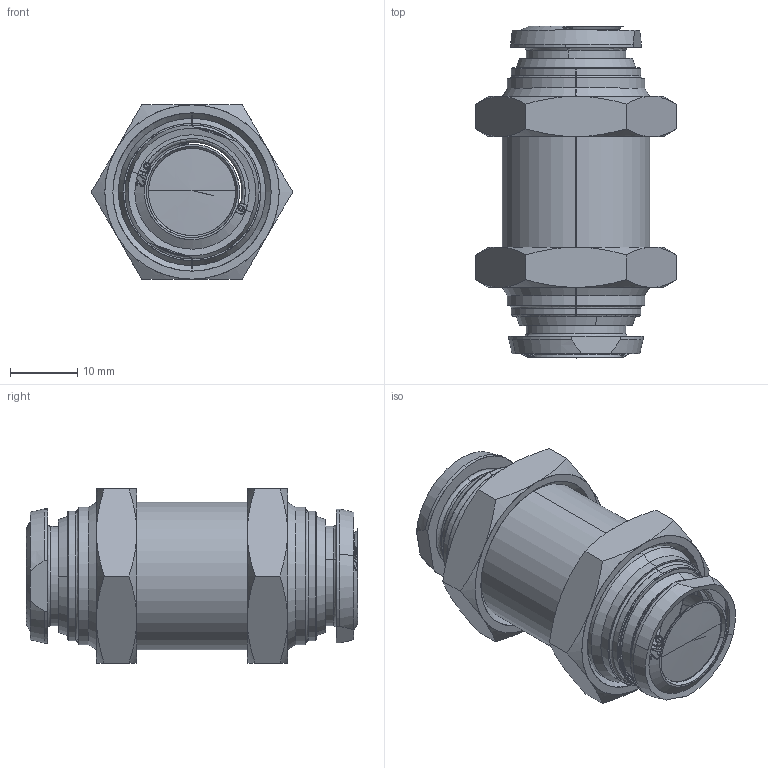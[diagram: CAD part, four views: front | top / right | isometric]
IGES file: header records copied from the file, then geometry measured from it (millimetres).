
Start section: SolidWorks IGES file using analytic representation for surfaces
Global section: file name: K:\Disegni Esecutivi\Alpha Technologies\Assiemi-88000\88050\88050_iges\8805000006A.IGS; native system: SolidWorks 2009; preprocessor: SolidWorks 2009; author: cad05; date: 091028.090911; units: millimetre
Bounding box: 30.02 x 49.5 x 26 mm (x, y, z)
Surface area: 5984.7 mm2 (no closed solid volume)
Topology: 0 solids, 0 shells, 288 faces, 3455 edges, 3453 vertices
Faces by surface type: bspline 163, revolution 125
